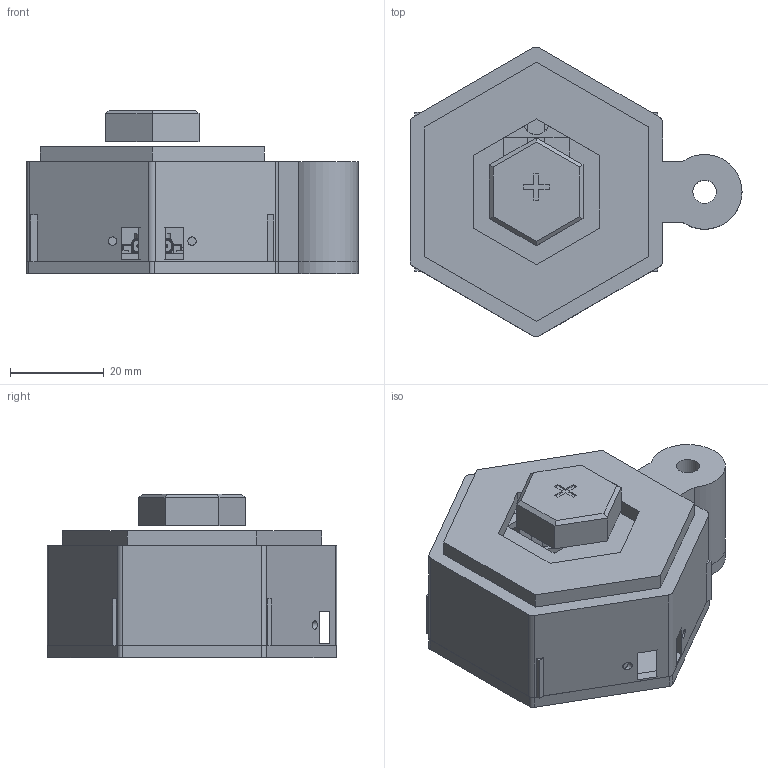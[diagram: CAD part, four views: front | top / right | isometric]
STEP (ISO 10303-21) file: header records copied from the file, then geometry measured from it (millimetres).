
FILE_DESCRIPTION(('Open CASCADE Model'),'2;1');
FILE_NAME('Open CASCADE Shape Model','2026-09-17T20:09:27',('Author'),( 'Open CASCADE'),'Open CASCADE STEP processor 7.7','Open CASCADE 7.7' ,'Unknown');
FILE_SCHEMA(('AUTOMOTIVE_DESIGN { 1 0 10303 214 1 1 1 1 }'));
Length unit declared in the file: millimetre
Products named in the file (14): ec0b0162-b2c2-11f1-bb5d-e6c257a7151f; Upper shell; Upper shell_part; Bottom chassis; Bottom chassis_part; Hex keycap; Hex keycap_part; Light guide; Light guide_part; Guard ring; Guard ring_part; XIAO ESP32-S3; XIAO ESP32-S3_part
Assembly tree (13 placements, depth 4):
  ec0b0162-b2c2-11f1-bb5d-e6c257a7151f
    ec0b0162-b2c2-11f1-bb5d-e6c257a7151f
      Upper shell
        Upper shell_part
      Bottom chassis
        Bottom chassis_part
      Hex keycap
        Hex keycap_part
      Light guide
        Light guide_part
      Guard ring
        Guard ring_part
      XIAO ESP32-S3
        XIAO ESP32-S3_part
Bounding box: 71 x 62.01 x 35 mm (x, y, z)
Volume: 32753.4 mm3; surface area: 29914.5 mm2
Topology: 42 solids, 47 shells, 1209 faces, 3110 edges, 2027 vertices
Faces by surface type: plane 918, cylinder 257, cone 13, torus 12, sphere 6, bspline 3
Full cylindrical faces by diameter (mm): 0.5 x3, 0.6 x2, 0.75 x14, 1.1 x2, 1.524 x8, 1.72 x1, 1.8 x2, 1.86 x1, 2 x2, 2.2 x4, 2.45 x4, 3.4 x12, 5 x2, 5.35 x1, 5.55 x1, 7.2 x1, 7.6 x1
Entity records: 78775 total; most frequent: CARTESIAN_POINT 15634, DIRECTION 11657, LINE 7820, VECTOR 7820, ORIENTED_EDGE 6204, PCURVE 6204, DEFINITIONAL_REPRESENTATION 6204, EDGE_CURVE 3102
